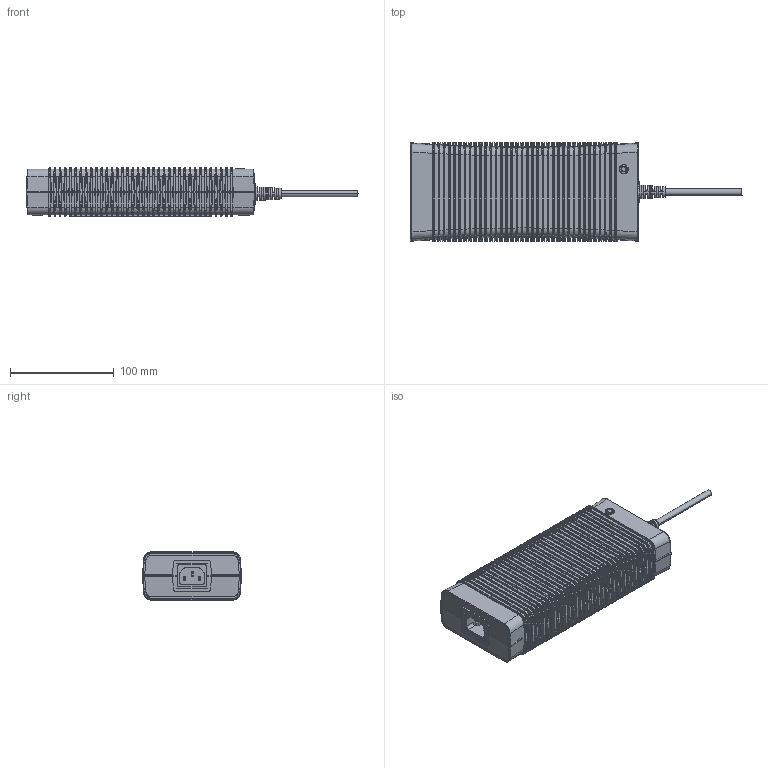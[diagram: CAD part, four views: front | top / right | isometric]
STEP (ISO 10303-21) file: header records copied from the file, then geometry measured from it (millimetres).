
FILE_DESCRIPTION(('Creo Elements/Direct Modeling STEP Export'),'2;1');
FILE_NAME('GC-330.stp','2017-12-05T16:27:25',(''),(''),'PTC Creo Elements/Direct Modeling STEP processor for AP214 (Solid Model)','PTC Creo Elements/Direct Modeling 19.0 09-May-2014 (C) Parametric Technology GmbH','');
FILE_SCHEMA(('AUTOMOTIVE_DESIGN { 1 0 10303 214 1 1 1 1 }'));
Products named in the file (1): GC-330
Bounding box: 319.5 x 95.1 x 46.5 mm (x, y, z)
Surface area: 176241.6 mm2 (no closed solid volume)
Topology: 0 solids, 3 shells, 2765 faces, 7552 edges, 4815 vertices
Faces by surface type: plane 983, extrusion 508, cylinder 412, bspline 344, cone 315, torus 201, sphere 2
Entity records: 125522 total; most frequent: CARTESIAN_POINT 67868, ORIENTED_EDGE 15097, DIRECTION 7752, EDGE_CURVE 7551, VERTEX_POINT 4815, VECTOR 3448, LINE 2994, EDGE_LOOP 2817
